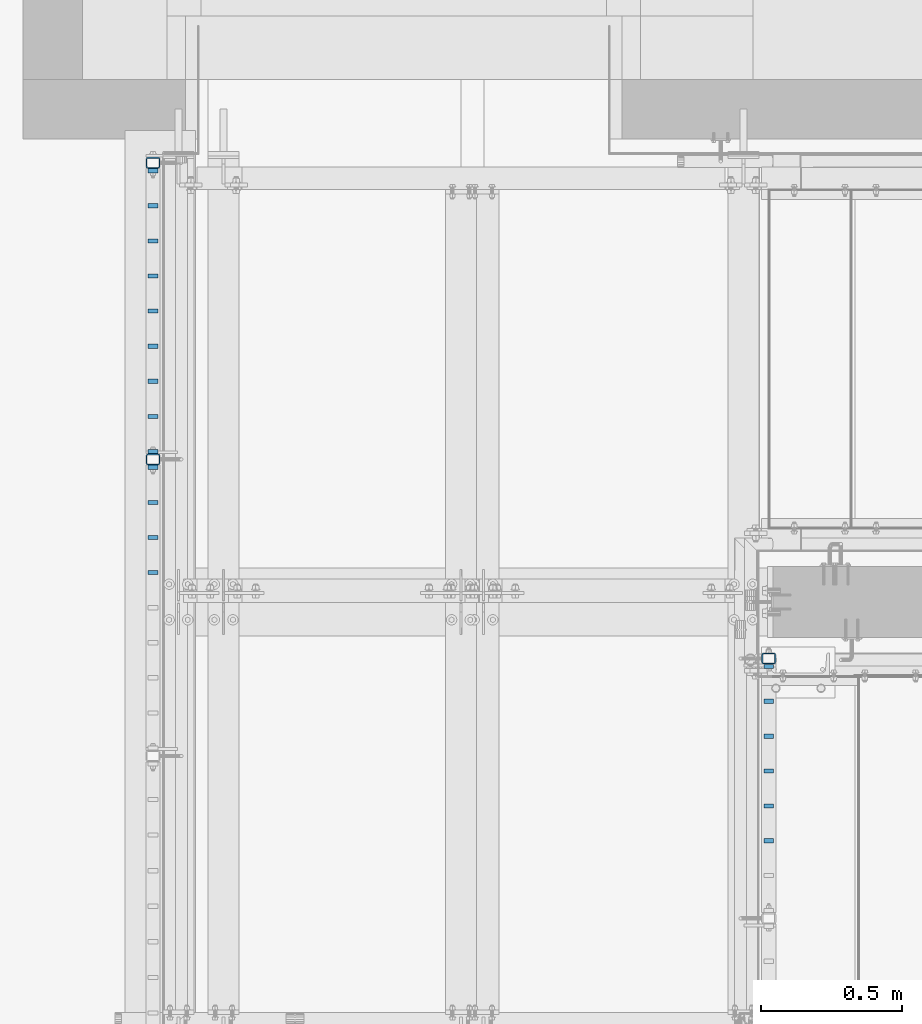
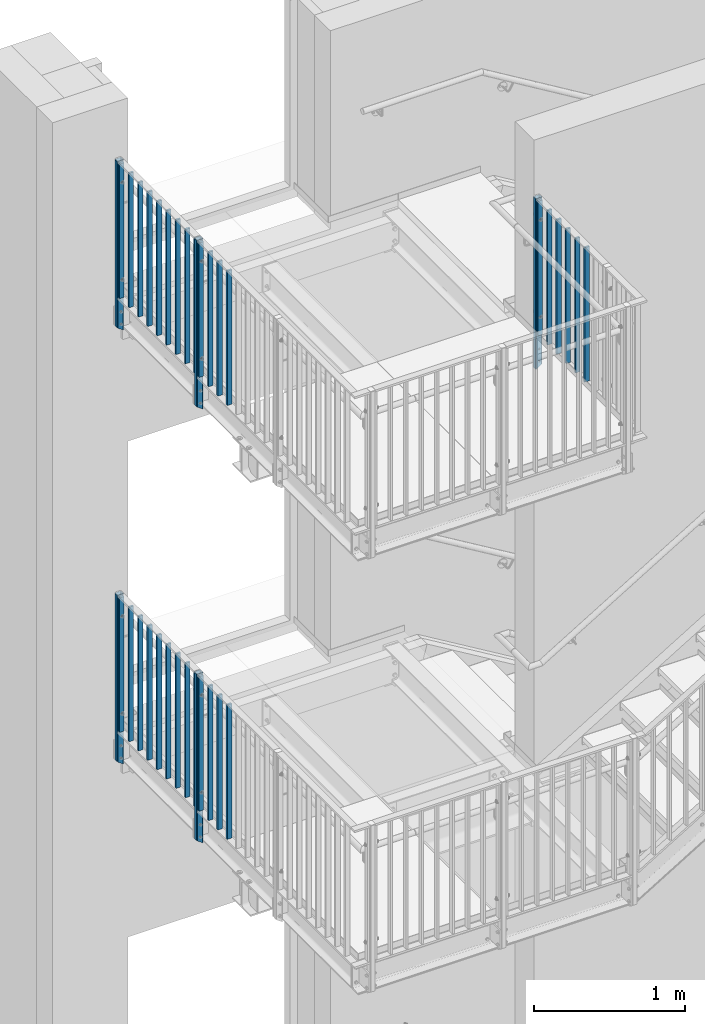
# One storey, part 11 of 410: 37 columns, 54 openings.
"""IFC2X3 building model written with IfcOpenShell, lengths in millimetres."""

from ifc_helpers import new_model, entity, si_unit, converted_unit, frame, frame_2d, origin, origin_with_axes, origin_2d, place, context, project, spatial, rectangle, hollow_rectangle, circle, extrude, clip, halfspace, material, element, save


model = new_model("IFC2X3")

# Units and contexts
model_context = context("Model", 3, precision=1e-09, world=origin_with_axes())
ifc_project = project(units=[si_unit("LENGTHUNIT", "METRE", prefix="MILLI"), si_unit("AREAUNIT", "SQUARE_METRE"), si_unit("VOLUMEUNIT", "CUBIC_METRE"), converted_unit("PLANEANGLEUNIT", "DEGREE", entity("IfcPlaneAngleMeasure", 0.01745329), si_unit("PLANEANGLEUNIT", "RADIAN"), dimensions=[0, 0, 0, 0, 0, 0, 0])], contexts=[model_context])

# Site, building, storey
site_placement = place(None, origin_with_axes())
site = spatial("IfcSite", under=ifc_project, at=site_placement, Name="mKR Teilneubau & Sanierung BA1 - Ostfildern", CompositionType="ELEMENT")
building_placement = place(site_placement, origin_with_axes())
building = spatial("IfcBuilding", under=site, at=building_placement, Name="Struktur 1", CompositionType="ELEMENT")
storey_placement = place(building_placement, origin_with_axes())
storey = spatial("IfcBuildingStorey", under=building, at=storey_placement, Name="Default Storey", CompositionType="ELEMENT", Elevation=0.0)

# Column, openings
ifc_material = material(Name="S235JR")
column_1_placement = place(None, frame((-3899.9485317, 17484.999999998, 5095.0), z_axis=(0.0, 0.0, 1.0), x_axis=(0.0, 1.0, 0.0)))
column_1 = element("IfcColumn", 1, at=column_1_placement, inside=storey, material=ifc_material, Name="-", ObjectType="-", context=model_context, shape_type="Clipping", body=[
    clip(extrude(hollow_rectangle(XDim=40.0, YDim=50.0, WallThickness=4.0, InnerFilletRadius=4.0, OuterFilletRadius=8.0, at=origin_2d()), origin(), (0.0, 0.0, -1.0), 1444.603221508), halfspace(frame((-17484.999999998, -4372.958340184, -4419.471984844), z_axis=(0.0, -0.573576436, 0.819152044), x_axis=(1.0, 0.0, 0.0)), True)),
])
opening_1_placement = place(column_1_placement, frame((-20.5, 0.0, -1265.0), z_axis=(1.0, 0.0, 0.0), x_axis=(0.0, 1.0, 0.0)))
element("IfcOpeningElement", 2, at=opening_1_placement, cuts=column_1, ObjectType="Opening", context=model_context, shape_type="SweptSolid", body=[
    extrude(circle(Radius=7.001, at=frame_2d((0.0, 50.0), x_axis=(1.0, 0.0))), origin(), (0.0, 0.0, 1.0), 5.0),
])
opening_2_placement = place(column_1_placement, frame((-20.5, 0.0, -1265.0), z_axis=(1.0, 0.0, 0.0), x_axis=(0.0, 1.0, 0.0)))
element("IfcOpeningElement", 3, at=opening_2_placement, cuts=column_1, ObjectType="Opening", context=model_context, shape_type="SweptSolid", body=[
    extrude(circle(Radius=7.001, at=frame_2d((0.0, -50.0), x_axis=(1.0, 0.0))), origin(), (0.0, 0.0, 1.0), 5.0),
])
opening_3_placement = place(column_1_placement, frame((15.5, 0.0, -1265.0), z_axis=(1.0, 0.0, 0.0), x_axis=(0.0, 1.0, 0.0)))
element("IfcOpeningElement", 4, at=opening_3_placement, cuts=column_1, ObjectType="Opening", context=model_context, shape_type="SweptSolid", body=[
    extrude(circle(Radius=7.001, at=frame_2d((0.0, 50.0), x_axis=(1.0, 0.0))), origin(), (0.0, 0.0, 1.0), 5.0),
])
opening_4_placement = place(column_1_placement, frame((15.5, 0.0, -1265.0), z_axis=(1.0, 0.0, 0.0), x_axis=(0.0, 1.0, 0.0)))
element("IfcOpeningElement", 5, at=opening_4_placement, cuts=column_1, ObjectType="Opening", context=model_context, shape_type="SweptSolid", body=[
    extrude(circle(Radius=7.001, at=frame_2d((0.0, -50.0), x_axis=(1.0, 0.0))), origin(), (0.0, 0.0, 1.0), 5.0),
])
opening_5_placement = place(column_1_placement, frame((15.5, -6.501, -945.0), z_axis=(-1.0, 0.0, 0.0), x_axis=(0.0, -1.0, 0.0)))
element("IfcOpeningElement", 6, at=opening_5_placement, cuts=column_1, ObjectType="Opening", context=model_context, shape_type="SweptSolid", body=[
    extrude(circle(Radius=6.501, at=frame_2d((-6.501, 0.0), x_axis=(1.0, 0.0))), origin(), (0.0, 0.0, -1.0), 5.0),
])
opening_6_placement = place(column_1_placement, frame((15.5, -6.501, -160.0), z_axis=(-1.0, 0.0, 0.0), x_axis=(0.0, -1.0, 0.0)))
element("IfcOpeningElement", 7, at=opening_6_placement, cuts=column_1, ObjectType="Opening", context=model_context, shape_type="SweptSolid", body=[
    extrude(circle(Radius=6.501, at=frame_2d((-6.501, 0.0), x_axis=(1.0, 0.0))), origin(), (0.0, 0.0, -1.0), 5.0),
])
opening_7_placement = place(column_1_placement, frame((-20.5, -6.501, -945.0), z_axis=(-1.0, 0.0, 0.0), x_axis=(0.0, -1.0, 0.0)))
element("IfcOpeningElement", 8, at=opening_7_placement, cuts=column_1, ObjectType="Opening", context=model_context, shape_type="SweptSolid", body=[
    extrude(circle(Radius=6.501, at=frame_2d((-6.501, 0.0), x_axis=(1.0, 0.0))), origin(), (0.0, 0.0, -1.0), 5.0),
])
opening_8_placement = place(column_1_placement, frame((-20.5, -6.501, -160.0), z_axis=(-1.0, 0.0, 0.0), x_axis=(0.0, -1.0, 0.0)))
element("IfcOpeningElement", 9, at=opening_8_placement, cuts=column_1, ObjectType="Opening", context=model_context, shape_type="SweptSolid", body=[
    extrude(circle(Radius=6.501, at=frame_2d((-6.501, 0.0), x_axis=(1.0, 0.0))), origin(), (0.0, 0.0, -1.0), 5.0),
])

column_2_placement = place(None, frame((-3899.9485317, 18534.999999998, 5095.0), z_axis=(0.0, 0.0, 1.0), x_axis=(0.0, 1.0, 0.0)))
column_2 = element("IfcColumn", 10, at=column_2_placement, inside=storey, material=ifc_material, Name="-", ObjectType="-", context=model_context, shape_type="Clipping", body=[
    clip(extrude(hollow_rectangle(XDim=40.0, YDim=50.0, WallThickness=4.0, InnerFilletRadius=4.0, OuterFilletRadius=8.0, at=origin_2d()), origin(), (0.0, 0.0, -1.0), 1444.603221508), halfspace(frame((-18534.999999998, -4372.958340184, -4419.471984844), z_axis=(0.0, -0.573576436, 0.819152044), x_axis=(1.0, 0.0, 0.0)), True)),
])
opening_9_placement = place(column_2_placement, frame((-20.5, 0.0, -1265.0), z_axis=(1.0, 0.0, 0.0), x_axis=(0.0, 1.0, 0.0)))
element("IfcOpeningElement", 11, at=opening_9_placement, cuts=column_2, ObjectType="Opening", context=model_context, shape_type="SweptSolid", body=[
    extrude(circle(Radius=7.001, at=frame_2d((0.0, 50.0), x_axis=(1.0, 0.0))), origin(), (0.0, 0.0, 1.0), 5.0),
])
opening_10_placement = place(column_2_placement, frame((-20.5, 0.0, -1265.0), z_axis=(1.0, 0.0, 0.0), x_axis=(0.0, 1.0, 0.0)))
element("IfcOpeningElement", 12, at=opening_10_placement, cuts=column_2, ObjectType="Opening", context=model_context, shape_type="SweptSolid", body=[
    extrude(circle(Radius=7.001, at=frame_2d((0.0, -50.0), x_axis=(1.0, 0.0))), origin(), (0.0, 0.0, 1.0), 5.0),
])
opening_11_placement = place(column_2_placement, frame((15.5, 0.0, -1265.0), z_axis=(1.0, 0.0, 0.0), x_axis=(0.0, 1.0, 0.0)))
element("IfcOpeningElement", 13, at=opening_11_placement, cuts=column_2, ObjectType="Opening", context=model_context, shape_type="SweptSolid", body=[
    extrude(circle(Radius=7.001, at=frame_2d((0.0, 50.0), x_axis=(1.0, 0.0))), origin(), (0.0, 0.0, 1.0), 5.0),
])
opening_12_placement = place(column_2_placement, frame((15.5, 0.0, -1265.0), z_axis=(1.0, 0.0, 0.0), x_axis=(0.0, 1.0, 0.0)))
element("IfcOpeningElement", 14, at=opening_12_placement, cuts=column_2, ObjectType="Opening", context=model_context, shape_type="SweptSolid", body=[
    extrude(circle(Radius=7.001, at=frame_2d((0.0, -50.0), x_axis=(1.0, 0.0))), origin(), (0.0, 0.0, 1.0), 5.0),
])
opening_13_placement = place(column_2_placement, frame((15.5, -6.501, -945.0), z_axis=(-1.0, 0.0, 0.0), x_axis=(0.0, -1.0, 0.0)))
element("IfcOpeningElement", 15, at=opening_13_placement, cuts=column_2, ObjectType="Opening", context=model_context, shape_type="SweptSolid", body=[
    extrude(circle(Radius=6.501, at=frame_2d((-6.501, 0.0), x_axis=(1.0, 0.0))), origin(), (0.0, 0.0, -1.0), 5.0),
])
opening_14_placement = place(column_2_placement, frame((15.5, -6.501, -160.0), z_axis=(-1.0, 0.0, 0.0), x_axis=(0.0, -1.0, 0.0)))
element("IfcOpeningElement", 16, at=opening_14_placement, cuts=column_2, ObjectType="Opening", context=model_context, shape_type="SweptSolid", body=[
    extrude(circle(Radius=6.501, at=frame_2d((-6.501, 0.0), x_axis=(1.0, 0.0))), origin(), (0.0, 0.0, -1.0), 5.0),
])
opening_15_placement = place(column_2_placement, frame((-20.5, -6.501, -945.0), z_axis=(-1.0, 0.0, 0.0), x_axis=(0.0, -1.0, 0.0)))
element("IfcOpeningElement", 17, at=opening_15_placement, cuts=column_2, ObjectType="Opening", context=model_context, shape_type="SweptSolid", body=[
    extrude(circle(Radius=6.501, at=frame_2d((-6.501, 0.0), x_axis=(1.0, 0.0))), origin(), (0.0, 0.0, -1.0), 5.0),
])
opening_16_placement = place(column_2_placement, frame((-20.5, -6.501, -160.0), z_axis=(-1.0, 0.0, 0.0), x_axis=(0.0, -1.0, 0.0)))
element("IfcOpeningElement", 18, at=opening_16_placement, cuts=column_2, ObjectType="Opening", context=model_context, shape_type="SweptSolid", body=[
    extrude(circle(Radius=6.501, at=frame_2d((-6.501, 0.0), x_axis=(1.0, 0.0))), origin(), (0.0, 0.0, -1.0), 5.0),
])

column_3_placement = place(None, frame((-3899.9485317, 18534.999999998, 8595.0), z_axis=(0.0, 0.0, 1.0), x_axis=(0.0, 1.0, 0.0)))
column_3 = element("IfcColumn", 19, at=column_3_placement, inside=storey, material=ifc_material, Name="-", ObjectType="-", context=model_context, shape_type="Clipping", body=[
    clip(extrude(hollow_rectangle(XDim=40.0, YDim=50.0, WallThickness=4.0, InnerFilletRadius=4.0, OuterFilletRadius=8.0, at=origin_2d()), origin(), (0.0, 0.0, -1.0), 1444.603221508), halfspace(frame((-18534.999999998, -6017.420426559, -5570.936734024), z_axis=(0.0, -0.573576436, 0.819152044), x_axis=(1.0, 0.0, 0.0)), True)),
])
opening_17_placement = place(column_3_placement, frame((-20.5, 0.0, -1265.0), z_axis=(1.0, 0.0, 0.0), x_axis=(0.0, 1.0, 0.0)))
element("IfcOpeningElement", 20, at=opening_17_placement, cuts=column_3, ObjectType="Opening", context=model_context, shape_type="SweptSolid", body=[
    extrude(circle(Radius=7.001, at=frame_2d((0.0, 50.0), x_axis=(1.0, 0.0))), origin(), (0.0, 0.0, 1.0), 5.0),
])
opening_18_placement = place(column_3_placement, frame((-20.5, 0.0, -1265.0), z_axis=(1.0, 0.0, 0.0), x_axis=(0.0, 1.0, 0.0)))
element("IfcOpeningElement", 21, at=opening_18_placement, cuts=column_3, ObjectType="Opening", context=model_context, shape_type="SweptSolid", body=[
    extrude(circle(Radius=7.001, at=frame_2d((0.0, -50.0), x_axis=(1.0, 0.0))), origin(), (0.0, 0.0, 1.0), 5.0),
])
opening_19_placement = place(column_3_placement, frame((15.5, 0.0, -1265.0), z_axis=(1.0, 0.0, 0.0), x_axis=(0.0, 1.0, 0.0)))
element("IfcOpeningElement", 22, at=opening_19_placement, cuts=column_3, ObjectType="Opening", context=model_context, shape_type="SweptSolid", body=[
    extrude(circle(Radius=7.001, at=frame_2d((0.0, 50.0), x_axis=(1.0, 0.0))), origin(), (0.0, 0.0, 1.0), 5.0),
])
opening_20_placement = place(column_3_placement, frame((15.5, 0.0, -1265.0), z_axis=(1.0, 0.0, 0.0), x_axis=(0.0, 1.0, 0.0)))
element("IfcOpeningElement", 23, at=opening_20_placement, cuts=column_3, ObjectType="Opening", context=model_context, shape_type="SweptSolid", body=[
    extrude(circle(Radius=7.001, at=frame_2d((0.0, -50.0), x_axis=(1.0, 0.0))), origin(), (0.0, 0.0, 1.0), 5.0),
])
opening_21_placement = place(column_3_placement, frame((15.5, -6.501, -945.0), z_axis=(-1.0, 0.0, 0.0), x_axis=(0.0, -1.0, 0.0)))
element("IfcOpeningElement", 24, at=opening_21_placement, cuts=column_3, ObjectType="Opening", context=model_context, shape_type="SweptSolid", body=[
    extrude(circle(Radius=6.501, at=frame_2d((-6.501, 0.0), x_axis=(1.0, 0.0))), origin(), (0.0, 0.0, -1.0), 5.0),
])
opening_22_placement = place(column_3_placement, frame((15.5, -6.501, -160.0), z_axis=(-1.0, 0.0, 0.0), x_axis=(0.0, -1.0, 0.0)))
element("IfcOpeningElement", 25, at=opening_22_placement, cuts=column_3, ObjectType="Opening", context=model_context, shape_type="SweptSolid", body=[
    extrude(circle(Radius=6.501, at=frame_2d((-6.501, 0.0), x_axis=(1.0, 0.0))), origin(), (0.0, 0.0, -1.0), 5.0),
])
opening_23_placement = place(column_3_placement, frame((-20.5, -6.501, -945.0), z_axis=(-1.0, 0.0, 0.0), x_axis=(0.0, -1.0, 0.0)))
element("IfcOpeningElement", 26, at=opening_23_placement, cuts=column_3, ObjectType="Opening", context=model_context, shape_type="SweptSolid", body=[
    extrude(circle(Radius=6.501, at=frame_2d((-6.501, 0.0), x_axis=(1.0, 0.0))), origin(), (0.0, 0.0, -1.0), 5.0),
])
opening_24_placement = place(column_3_placement, frame((-20.5, -6.501, -160.0), z_axis=(-1.0, 0.0, 0.0), x_axis=(0.0, -1.0, 0.0)))
element("IfcOpeningElement", 27, at=opening_24_placement, cuts=column_3, ObjectType="Opening", context=model_context, shape_type="SweptSolid", body=[
    extrude(circle(Radius=6.501, at=frame_2d((-6.501, 0.0), x_axis=(1.0, 0.0))), origin(), (0.0, 0.0, -1.0), 5.0),
])

column_4_placement = place(None, frame((-3899.9485317, 17484.999999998, 8595.0), z_axis=(0.0, 0.0, 1.0), x_axis=(0.0, 1.0, 0.0)))
column_4 = element("IfcColumn", 28, at=column_4_placement, inside=storey, material=ifc_material, Name="-", ObjectType="-", context=model_context, shape_type="Clipping", body=[
    clip(extrude(hollow_rectangle(XDim=40.0, YDim=50.0, WallThickness=4.0, InnerFilletRadius=4.0, OuterFilletRadius=8.0, at=origin_2d()), origin(), (0.0, 0.0, -1.0), 1444.603221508), halfspace(frame((-17484.999999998, -6017.420426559, -5570.936734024), z_axis=(0.0, -0.573576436, 0.819152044), x_axis=(1.0, 0.0, 0.0)), True)),
])
opening_25_placement = place(column_4_placement, frame((-20.5, 0.0, -1265.0), z_axis=(1.0, 0.0, 0.0), x_axis=(0.0, 1.0, 0.0)))
element("IfcOpeningElement", 29, at=opening_25_placement, cuts=column_4, ObjectType="Opening", context=model_context, shape_type="SweptSolid", body=[
    extrude(circle(Radius=7.001, at=frame_2d((0.0, 50.0), x_axis=(1.0, 0.0))), origin(), (0.0, 0.0, 1.0), 5.0),
])
opening_26_placement = place(column_4_placement, frame((-20.5, 0.0, -1265.0), z_axis=(1.0, 0.0, 0.0), x_axis=(0.0, 1.0, 0.0)))
element("IfcOpeningElement", 30, at=opening_26_placement, cuts=column_4, ObjectType="Opening", context=model_context, shape_type="SweptSolid", body=[
    extrude(circle(Radius=7.001, at=frame_2d((0.0, -50.0), x_axis=(1.0, 0.0))), origin(), (0.0, 0.0, 1.0), 5.0),
])
opening_27_placement = place(column_4_placement, frame((15.5, 0.0, -1265.0), z_axis=(1.0, 0.0, 0.0), x_axis=(0.0, 1.0, 0.0)))
element("IfcOpeningElement", 31, at=opening_27_placement, cuts=column_4, ObjectType="Opening", context=model_context, shape_type="SweptSolid", body=[
    extrude(circle(Radius=7.001, at=frame_2d((0.0, 50.0), x_axis=(1.0, 0.0))), origin(), (0.0, 0.0, 1.0), 5.0),
])
opening_28_placement = place(column_4_placement, frame((15.5, 0.0, -1265.0), z_axis=(1.0, 0.0, 0.0), x_axis=(0.0, 1.0, 0.0)))
element("IfcOpeningElement", 32, at=opening_28_placement, cuts=column_4, ObjectType="Opening", context=model_context, shape_type="SweptSolid", body=[
    extrude(circle(Radius=7.001, at=frame_2d((0.0, -50.0), x_axis=(1.0, 0.0))), origin(), (0.0, 0.0, 1.0), 5.0),
])
opening_29_placement = place(column_4_placement, frame((15.5, -6.501, -945.0), z_axis=(-1.0, 0.0, 0.0), x_axis=(0.0, -1.0, 0.0)))
element("IfcOpeningElement", 33, at=opening_29_placement, cuts=column_4, ObjectType="Opening", context=model_context, shape_type="SweptSolid", body=[
    extrude(circle(Radius=6.501, at=frame_2d((-6.501, 0.0), x_axis=(1.0, 0.0))), origin(), (0.0, 0.0, -1.0), 5.0),
])
opening_30_placement = place(column_4_placement, frame((15.5, -6.501, -160.0), z_axis=(-1.0, 0.0, 0.0), x_axis=(0.0, -1.0, 0.0)))
element("IfcOpeningElement", 34, at=opening_30_placement, cuts=column_4, ObjectType="Opening", context=model_context, shape_type="SweptSolid", body=[
    extrude(circle(Radius=6.501, at=frame_2d((-6.501, 0.0), x_axis=(1.0, 0.0))), origin(), (0.0, 0.0, -1.0), 5.0),
])
opening_31_placement = place(column_4_placement, frame((-20.5, -6.501, -945.0), z_axis=(-1.0, 0.0, 0.0), x_axis=(0.0, -1.0, 0.0)))
element("IfcOpeningElement", 35, at=opening_31_placement, cuts=column_4, ObjectType="Opening", context=model_context, shape_type="SweptSolid", body=[
    extrude(circle(Radius=6.501, at=frame_2d((-6.501, 0.0), x_axis=(1.0, 0.0))), origin(), (0.0, 0.0, -1.0), 5.0),
])
opening_32_placement = place(column_4_placement, frame((-20.5, -6.501, -160.0), z_axis=(-1.0, 0.0, 0.0), x_axis=(0.0, -1.0, 0.0)))
element("IfcOpeningElement", 36, at=opening_32_placement, cuts=column_4, ObjectType="Opening", context=model_context, shape_type="SweptSolid", body=[
    extrude(circle(Radius=6.501, at=frame_2d((-6.501, 0.0), x_axis=(1.0, 0.0))), origin(), (0.0, 0.0, -1.0), 5.0),
])

column_5_placement = place(None, frame((-1720.0485317, 16780.0, 8595.0), z_axis=(0.0, 0.0, 1.0), x_axis=(0.0, -1.0, 0.0)))
column_5 = element("IfcColumn", 37, at=column_5_placement, inside=storey, material=ifc_material, Name="-", ObjectType="-", context=model_context, shape_type="Clipping", body=[
    clip(extrude(hollow_rectangle(XDim=40.0, YDim=50.0, WallThickness=4.0, InnerFilletRadius=4.0, OuterFilletRadius=8.0, at=origin_2d()), origin(), (0.0, 0.0, -1.0), 1444.603221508), halfspace(frame((16780.0, -2246.345794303, -2930.401849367), z_axis=(0.0, -0.573576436, 0.819152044), x_axis=(1.0, 0.0, 0.0)), True)),
])
opening_33_placement = place(column_5_placement, frame((-20.5, 0.0, -1265.0), z_axis=(1.0, 0.0, 0.0), x_axis=(0.0, 1.0, 0.0)))
element("IfcOpeningElement", 38, at=opening_33_placement, cuts=column_5, ObjectType="Opening", context=model_context, shape_type="SweptSolid", body=[
    extrude(circle(Radius=7.001, at=frame_2d((0.0, 50.0), x_axis=(1.0, 0.0))), origin(), (0.0, 0.0, 1.0), 5.0),
])
opening_34_placement = place(column_5_placement, frame((-20.5, 0.0, -1265.0), z_axis=(1.0, 0.0, 0.0), x_axis=(0.0, 1.0, 0.0)))
element("IfcOpeningElement", 39, at=opening_34_placement, cuts=column_5, ObjectType="Opening", context=model_context, shape_type="SweptSolid", body=[
    extrude(circle(Radius=7.001, at=frame_2d((0.0, -50.0), x_axis=(1.0, 0.0))), origin(), (0.0, 0.0, 1.0), 5.0),
])
opening_35_placement = place(column_5_placement, frame((15.5, 0.0, -1265.0), z_axis=(1.0, 0.0, 0.0), x_axis=(0.0, 1.0, 0.0)))
element("IfcOpeningElement", 40, at=opening_35_placement, cuts=column_5, ObjectType="Opening", context=model_context, shape_type="SweptSolid", body=[
    extrude(circle(Radius=7.001, at=frame_2d((0.0, 50.0), x_axis=(1.0, 0.0))), origin(), (0.0, 0.0, 1.0), 5.0),
])
opening_36_placement = place(column_5_placement, frame((15.5, 0.0, -1265.0), z_axis=(1.0, 0.0, 0.0), x_axis=(0.0, 1.0, 0.0)))
element("IfcOpeningElement", 41, at=opening_36_placement, cuts=column_5, ObjectType="Opening", context=model_context, shape_type="SweptSolid", body=[
    extrude(circle(Radius=7.001, at=frame_2d((0.0, -50.0), x_axis=(1.0, 0.0))), origin(), (0.0, 0.0, 1.0), 5.0),
])
opening_37_placement = place(column_5_placement, frame((15.5, -6.501, -945.0), z_axis=(-1.0, 0.0, 0.0), x_axis=(0.0, -1.0, 0.0)))
element("IfcOpeningElement", 42, at=opening_37_placement, cuts=column_5, ObjectType="Opening", context=model_context, shape_type="SweptSolid", body=[
    extrude(circle(Radius=6.501, at=frame_2d((-6.501, 0.0), x_axis=(1.0, 0.0))), origin(), (0.0, 0.0, -1.0), 5.0),
])
opening_38_placement = place(column_5_placement, frame((15.5, -6.501, -160.0), z_axis=(-1.0, 0.0, 0.0), x_axis=(0.0, -1.0, 0.0)))
element("IfcOpeningElement", 43, at=opening_38_placement, cuts=column_5, ObjectType="Opening", context=model_context, shape_type="SweptSolid", body=[
    extrude(circle(Radius=6.501, at=frame_2d((-6.501, 0.0), x_axis=(1.0, 0.0))), origin(), (0.0, 0.0, -1.0), 5.0),
])
opening_39_placement = place(column_5_placement, frame((-20.5, -6.501, -945.0), z_axis=(-1.0, 0.0, 0.0), x_axis=(0.0, -1.0, 0.0)))
element("IfcOpeningElement", 44, at=opening_39_placement, cuts=column_5, ObjectType="Opening", context=model_context, shape_type="SweptSolid", body=[
    extrude(circle(Radius=6.501, at=frame_2d((-6.501, 0.0), x_axis=(1.0, 0.0))), origin(), (0.0, 0.0, -1.0), 5.0),
])
opening_40_placement = place(column_5_placement, frame((-20.5, -6.501, -160.0), z_axis=(-1.0, 0.0, 0.0), x_axis=(0.0, -1.0, 0.0)))
element("IfcOpeningElement", 45, at=opening_40_placement, cuts=column_5, ObjectType="Opening", context=model_context, shape_type="SweptSolid", body=[
    extrude(circle(Radius=6.501, at=frame_2d((-6.501, 0.0), x_axis=(1.0, 0.0))), origin(), (0.0, 0.0, -1.0), 5.0),
])

# Columns
for number, where, z_axis, x_axis in (
    (46, (-3899.9485317, 18382.749999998, 4000.0), (0.0, 0.0, -1.0), (0.0, -1.0, 0.0)),
    (47, (-3899.9485317, 18258.499999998, 4000.0), (0.0, 0.0, -1.0), (0.0, -1.0, 0.0)),
    (48, (-3899.9485317, 18134.249999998, 4000.0), (0.0, 0.0, -1.0), (0.0, -1.0, 0.0)),
    (49, (-3899.9485317, 18009.999999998, 4000.0), (0.0, 0.0, -1.0), (0.0, -1.0, 0.0)),
    (50, (-3899.9485317, 17885.749999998, 4000.0), (0.0, 0.0, -1.0), (0.0, -1.0, 0.0)),
    (51, (-3899.9485317, 17761.499999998, 4000.0), (0.0, 0.0, -1.0), (0.0, -1.0, 0.0)),
    (52, (-3899.9485317, 17637.249999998, 4000.0), (0.0, 0.0, -1.0), (0.0, -1.0, 0.0)),
):
    element("IfcColumn", number, at=place(None, frame(where, z_axis=z_axis, x_axis=x_axis)), inside=storey, material=ifc_material, Name="-", ObjectType="-", context=model_context, shape_type="SweptSolid", body=[
        extrude(rectangle(XDim=15.0, YDim=35.0, at=origin_2d()), origin(), (0.0, 0.0, -1.0), 1085.000007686),
    ])

# Column, openings
column_6_placement = place(None, frame((-3899.9485317, 17456.999999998, 4000.000000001), z_axis=(0.0, 0.0, -1.0), x_axis=(0.0, -1.0, 0.0)))
column_6 = element("IfcColumn", 53, at=column_6_placement, inside=storey, material=ifc_material, Name="-", ObjectType="-", context=model_context, shape_type="SweptSolid", body=[
    extrude(rectangle(XDim=15.0, YDim=35.0, at=origin_2d()), origin(), (0.0, 0.0, -1.0), 1085.000007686),
])
opening_41_placement = place(column_6_placement, frame((8.0, -6.001, -149.999999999), z_axis=(1.0, 0.0, 0.0), x_axis=(0.0, 1.0, 0.0)))
element("IfcOpeningElement", 54, at=opening_41_placement, cuts=column_6, ObjectType="Opening", context=model_context, shape_type="SweptSolid", body=[
    extrude(circle(Radius=6.001, at=frame_2d((6.001, 0.0), x_axis=(1.0, 0.0))), origin(), (0.0, 0.0, -1.0), 16.0),
])
opening_42_placement = place(column_6_placement, frame((8.0, -6.001, -934.999999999), z_axis=(1.0, 0.0, 0.0), x_axis=(0.0, 1.0, 0.0)))
element("IfcOpeningElement", 55, at=opening_42_placement, cuts=column_6, ObjectType="Opening", context=model_context, shape_type="SweptSolid", body=[
    extrude(circle(Radius=6.001, at=frame_2d((6.001, 0.0), x_axis=(1.0, 0.0))), origin(), (0.0, 0.0, -1.0), 16.0),
])

# Columns
for number, where, z_axis, x_axis in (
    (56, (-3899.9485317, 17332.749999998, 4000.000000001), (0.0, 0.0, -1.0), (0.0, -1.0, 0.0)),
    (57, (-3899.9485317, 17208.499999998, 4000.000000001), (0.0, 0.0, -1.0), (0.0, -1.0, 0.0)),
    (58, (-3899.9485317, 17084.249999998, 4000.000000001), (0.0, 0.0, -1.0), (0.0, -1.0, 0.0)),
):
    element("IfcColumn", number, at=place(None, frame(where, z_axis=z_axis, x_axis=x_axis)), inside=storey, material=ifc_material, Name="-", ObjectType="-", context=model_context, shape_type="SweptSolid", body=[
        extrude(rectangle(XDim=15.0, YDim=35.0, at=origin_2d()), origin(), (0.0, 0.0, -1.0), 1085.000007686),
    ])

# Column, openings
column_7_placement = place(None, frame((-3899.9485317, 17512.999999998, 8585.000007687), z_axis=(0.0, 0.0, 1.0), x_axis=(0.0, 1.0, 0.0)))
column_7 = element("IfcColumn", 59, at=column_7_placement, inside=storey, material=ifc_material, Name="-", ObjectType="-", context=model_context, shape_type="SweptSolid", body=[
    extrude(rectangle(XDim=15.0, YDim=35.0, at=origin_2d()), origin(), (0.0, 0.0, -1.0), 1085.000007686),
])
opening_43_placement = place(column_7_placement, frame((-8.0, -6.001, -935.000007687), z_axis=(-1.0, 0.0, 0.0), x_axis=(0.0, -1.0, 0.0)))
element("IfcOpeningElement", 60, at=opening_43_placement, cuts=column_7, ObjectType="Opening", context=model_context, shape_type="SweptSolid", body=[
    extrude(circle(Radius=6.001, at=frame_2d((-6.001, 0.0), x_axis=(1.0, 0.0))), origin(), (0.0, 0.0, -1.0), 16.0),
])
opening_44_placement = place(column_7_placement, frame((-8.0, -6.001, -150.000007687), z_axis=(-1.0, 0.0, 0.0), x_axis=(0.0, -1.0, 0.0)))
element("IfcOpeningElement", 61, at=opening_44_placement, cuts=column_7, ObjectType="Opening", context=model_context, shape_type="SweptSolid", body=[
    extrude(circle(Radius=6.001, at=frame_2d((-6.001, 0.0), x_axis=(1.0, 0.0))), origin(), (0.0, 0.0, -1.0), 16.0),
])

column_8_placement = place(None, frame((-3899.9485317, 18506.999999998, 7500.0), z_axis=(0.0, 0.0, -1.0), x_axis=(0.0, -1.0, 0.0)))
column_8 = element("IfcColumn", 62, at=column_8_placement, inside=storey, material=ifc_material, Name="-", ObjectType="-", context=model_context, shape_type="SweptSolid", body=[
    extrude(rectangle(XDim=15.0, YDim=35.0, at=origin_2d()), origin(), (0.0, 0.0, -1.0), 1085.000007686),
])
opening_45_placement = place(column_8_placement, frame((8.0, -6.001, -150.0), z_axis=(1.0, 0.0, 0.0), x_axis=(0.0, 1.0, 0.0)))
element("IfcOpeningElement", 63, at=opening_45_placement, cuts=column_8, ObjectType="Opening", context=model_context, shape_type="SweptSolid", body=[
    extrude(circle(Radius=6.001, at=frame_2d((6.001, 0.0), x_axis=(1.0, 0.0))), origin(), (0.0, 0.0, -1.0), 16.0),
])
opening_46_placement = place(column_8_placement, frame((8.0, -6.001, -935.0), z_axis=(1.0, 0.0, 0.0), x_axis=(0.0, 1.0, 0.0)))
element("IfcOpeningElement", 64, at=opening_46_placement, cuts=column_8, ObjectType="Opening", context=model_context, shape_type="SweptSolid", body=[
    extrude(circle(Radius=6.001, at=frame_2d((6.001, 0.0), x_axis=(1.0, 0.0))), origin(), (0.0, 0.0, -1.0), 16.0),
])

# Columns
for number, where, z_axis, x_axis in (
    (65, (-3899.9485317, 18382.749999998, 7500.0), (0.0, 0.0, -1.0), (0.0, -1.0, 0.0)),
    (66, (-3899.9485317, 18258.499999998, 7500.0), (0.0, 0.0, -1.0), (0.0, -1.0, 0.0)),
    (67, (-3899.9485317, 18134.249999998, 7500.0), (0.0, 0.0, -1.0), (0.0, -1.0, 0.0)),
    (68, (-3899.9485317, 18009.999999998, 7500.0), (0.0, 0.0, -1.0), (0.0, -1.0, 0.0)),
    (69, (-3899.9485317, 17885.749999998, 7500.0), (0.0, 0.0, -1.0), (0.0, -1.0, 0.0)),
    (70, (-3899.9485317, 17761.499999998, 7500.0), (0.0, 0.0, -1.0), (0.0, -1.0, 0.0)),
    (71, (-3899.9485317, 17637.249999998, 7500.0), (0.0, 0.0, -1.0), (0.0, -1.0, 0.0)),
):
    element("IfcColumn", number, at=place(None, frame(where, z_axis=z_axis, x_axis=x_axis)), inside=storey, material=ifc_material, Name="-", ObjectType="-", context=model_context, shape_type="SweptSolid", body=[
        extrude(rectangle(XDim=15.0, YDim=35.0, at=origin_2d()), origin(), (0.0, 0.0, -1.0), 1085.000007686),
    ])

# Column, openings
column_9_placement = place(None, frame((-3899.9485317, 17456.999999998, 7500.000000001), z_axis=(0.0, 0.0, -1.0), x_axis=(0.0, -1.0, 0.0)))
column_9 = element("IfcColumn", 72, at=column_9_placement, inside=storey, material=ifc_material, Name="-", ObjectType="-", context=model_context, shape_type="SweptSolid", body=[
    extrude(rectangle(XDim=15.0, YDim=35.0, at=origin_2d()), origin(), (0.0, 0.0, -1.0), 1085.000007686),
])
opening_47_placement = place(column_9_placement, frame((8.0, -6.001, -149.999999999), z_axis=(1.0, 0.0, 0.0), x_axis=(0.0, 1.0, 0.0)))
element("IfcOpeningElement", 73, at=opening_47_placement, cuts=column_9, ObjectType="Opening", context=model_context, shape_type="SweptSolid", body=[
    extrude(circle(Radius=6.001, at=frame_2d((6.001, 0.0), x_axis=(1.0, 0.0))), origin(), (0.0, 0.0, -1.0), 16.0),
])
opening_48_placement = place(column_9_placement, frame((8.0, -6.001, -934.999999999), z_axis=(1.0, 0.0, 0.0), x_axis=(0.0, 1.0, 0.0)))
element("IfcOpeningElement", 74, at=opening_48_placement, cuts=column_9, ObjectType="Opening", context=model_context, shape_type="SweptSolid", body=[
    extrude(circle(Radius=6.001, at=frame_2d((6.001, 0.0), x_axis=(1.0, 0.0))), origin(), (0.0, 0.0, -1.0), 16.0),
])

# Columns
for number, where, z_axis, x_axis in (
    (75, (-3899.9485317, 17332.749999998, 7500.000000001), (0.0, 0.0, -1.0), (0.0, -1.0, 0.0)),
    (76, (-3899.9485317, 17208.499999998, 7500.000000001), (0.0, 0.0, -1.0), (0.0, -1.0, 0.0)),
    (77, (-3899.9485317, 17084.249999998, 7500.000000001), (0.0, 0.0, -1.0), (0.0, -1.0, 0.0)),
):
    element("IfcColumn", number, at=place(None, frame(where, z_axis=z_axis, x_axis=x_axis)), inside=storey, material=ifc_material, Name="-", ObjectType="-", context=model_context, shape_type="SweptSolid", body=[
        extrude(rectangle(XDim=15.0, YDim=35.0, at=origin_2d()), origin(), (0.0, 0.0, -1.0), 1085.000007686),
    ])

# Column, openings
column_10_placement = place(None, frame((-1720.0485317, 16752.0, 8585.0), z_axis=(0.0, 0.0, 1.0), x_axis=(0.0, -1.0, 0.0)))
column_10 = element("IfcColumn", 78, at=column_10_placement, inside=storey, material=ifc_material, Name="-", ObjectType="-", context=model_context, shape_type="SweptSolid", body=[
    extrude(rectangle(XDim=15.0, YDim=35.0, at=origin_2d()), origin(), (0.0, 0.0, -1.0), 1085.0),
])
opening_49_placement = place(column_10_placement, frame((-8.0, -6.001, -935.0), z_axis=(-1.0, 0.0, 0.0), x_axis=(0.0, -1.0, 0.0)))
element("IfcOpeningElement", 79, at=opening_49_placement, cuts=column_10, ObjectType="Opening", context=model_context, shape_type="SweptSolid", body=[
    extrude(circle(Radius=6.001, at=frame_2d((-6.001, 0.0), x_axis=(1.0, 0.0))), origin(), (0.0, 0.0, -1.0), 16.0),
])
opening_50_placement = place(column_10_placement, frame((-8.0, -6.001, -150.0), z_axis=(-1.0, 0.0, 0.0), x_axis=(0.0, -1.0, 0.0)))
element("IfcOpeningElement", 80, at=opening_50_placement, cuts=column_10, ObjectType="Opening", context=model_context, shape_type="SweptSolid", body=[
    extrude(circle(Radius=6.001, at=frame_2d((-6.001, 0.0), x_axis=(1.0, 0.0))), origin(), (0.0, 0.0, -1.0), 16.0),
])

# Columns
for number, where, z_axis, x_axis in (
    (81, (-1720.0485317, 16134.8571428, 7500.0), (0.0, 0.0, -1.0), (0.0, 1.0, 0.0)),
    (82, (-1720.0485317, 16258.2857142, 7500.0), (0.0, 0.0, -1.0), (0.0, 1.0, 0.0)),
    (83, (-1720.0485317, 16381.7142856, 7500.0), (0.0, 0.0, -1.0), (0.0, 1.0, 0.0)),
    (84, (-1720.0485317, 16505.142857, 7500.0), (0.0, 0.0, -1.0), (0.0, 1.0, 0.0)),
    (85, (-1720.0485317, 16628.5714284, 7500.0), (0.0, 0.0, -1.0), (0.0, 1.0, 0.0)),
):
    element("IfcColumn", number, at=place(None, frame(where, z_axis=z_axis, x_axis=x_axis)), inside=storey, material=ifc_material, Name="-", ObjectType="-", context=model_context, shape_type="SweptSolid", body=[
        extrude(rectangle(XDim=15.0, YDim=35.0, at=origin_2d()), origin(), (0.0, 0.0, -1.0), 1085.0),
    ])

# Column, openings
column_11_placement = place(None, frame((-3899.9485317, 17512.999999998, 5085.000007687), z_axis=(0.0, 0.0, 1.0), x_axis=(0.0, 1.0, 0.0)))
column_11 = element("IfcColumn", 86, at=column_11_placement, inside=storey, material=ifc_material, Name="-", ObjectType="-", context=model_context, shape_type="SweptSolid", body=[
    extrude(rectangle(XDim=15.0, YDim=35.0, at=origin_2d()), origin(), (0.0, 0.0, -1.0), 1085.000007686),
])
opening_51_placement = place(column_11_placement, frame((-8.0, -6.001, -935.000007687), z_axis=(-1.0, 0.0, 0.0), x_axis=(0.0, -1.0, 0.0)))
element("IfcOpeningElement", 87, at=opening_51_placement, cuts=column_11, ObjectType="Opening", context=model_context, shape_type="SweptSolid", body=[
    extrude(circle(Radius=6.001, at=frame_2d((-6.001, 0.0), x_axis=(1.0, 0.0))), origin(), (0.0, 0.0, -1.0), 16.0),
])
opening_52_placement = place(column_11_placement, frame((-8.0, -6.001, -150.000007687), z_axis=(-1.0, 0.0, 0.0), x_axis=(0.0, -1.0, 0.0)))
element("IfcOpeningElement", 88, at=opening_52_placement, cuts=column_11, ObjectType="Opening", context=model_context, shape_type="SweptSolid", body=[
    extrude(circle(Radius=6.001, at=frame_2d((-6.001, 0.0), x_axis=(1.0, 0.0))), origin(), (0.0, 0.0, -1.0), 16.0),
])

column_12_placement = place(None, frame((-3899.9485317, 18506.999999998, 4000.0), z_axis=(0.0, 0.0, -1.0), x_axis=(0.0, -1.0, 0.0)))
column_12 = element("IfcColumn", 89, at=column_12_placement, inside=storey, material=ifc_material, Name="-", ObjectType="-", context=model_context, shape_type="SweptSolid", body=[
    extrude(rectangle(XDim=15.0, YDim=35.0, at=origin_2d()), origin(), (0.0, 0.0, -1.0), 1085.000007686),
])
opening_53_placement = place(column_12_placement, frame((8.0, -6.001, -150.0), z_axis=(1.0, 0.0, 0.0), x_axis=(0.0, 1.0, 0.0)))
element("IfcOpeningElement", 90, at=opening_53_placement, cuts=column_12, ObjectType="Opening", context=model_context, shape_type="SweptSolid", body=[
    extrude(circle(Radius=6.001, at=frame_2d((6.001, 0.0), x_axis=(1.0, 0.0))), origin(), (0.0, 0.0, -1.0), 16.0),
])
opening_54_placement = place(column_12_placement, frame((8.0, -6.001, -935.0), z_axis=(1.0, 0.0, 0.0), x_axis=(0.0, 1.0, 0.0)))
element("IfcOpeningElement", 91, at=opening_54_placement, cuts=column_12, ObjectType="Opening", context=model_context, shape_type="SweptSolid", body=[
    extrude(circle(Radius=6.001, at=frame_2d((6.001, 0.0), x_axis=(1.0, 0.0))), origin(), (0.0, 0.0, -1.0), 16.0),
])

save(model, "model.ifc")
